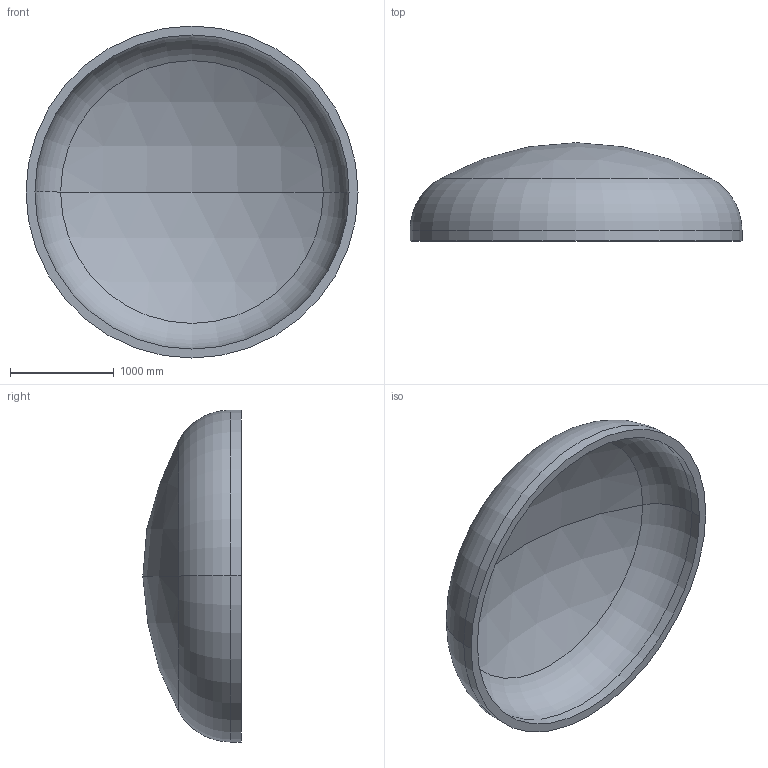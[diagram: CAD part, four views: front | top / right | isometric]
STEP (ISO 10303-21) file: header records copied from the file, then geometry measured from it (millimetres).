
FILE_DESCRIPTION (( 'STEP AP203' ), '1' );
FILE_NAME ('DIN 28013 Korbbogenform_-_Boden DIN 28013 - 3200 x 100 - I - s=86.step', '2016-07-01T18:53:58', ( '' ), ( '' ), 'SwSTEP 2.0', 'SolidWorks 2013', '' );
FILE_SCHEMA (( 'CONFIG_CONTROL_DESIGN' ));
Length unit declared in the file: millimetre
Products named in the file (1): DIN 28013 Korbbogenform_-_Boden DIN 28013 - 3200 x 100 - I - s=86
Bounding box: 3200 x 947.02 x 3200 mm (x, y, z)
Volume: 1007880510 mm3; surface area: 24295895 mm2
Topology: 1 solids, 1 shells, 13 faces, 24 edges, 14 vertices
Faces by surface type: torus 4, cylinder 4, sphere 4, plane 1
Entity records: 407 total; most frequent: DIRECTION 72, CARTESIAN_POINT 52, ORIENTED_EDGE 48, AXIS2_PLACEMENT_3D 34, EDGE_CURVE 24, CIRCLE 20, VERTEX_POINT 14, EDGE_LOOP 14
